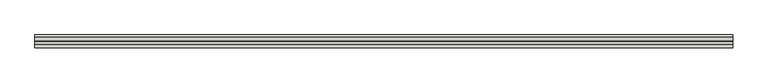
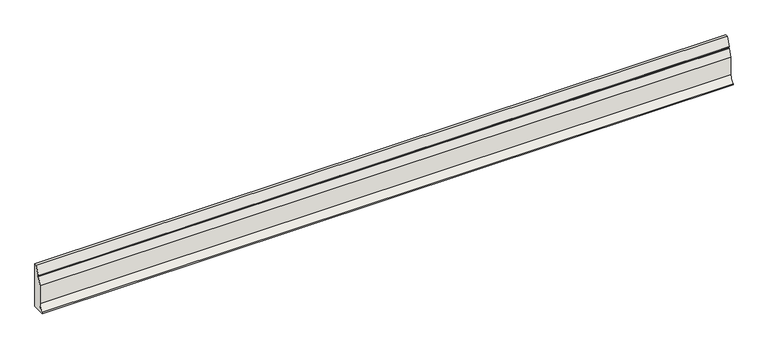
"""IFC4 building model written with IfcOpenShell, lengths in millimetres: wall geometry, GM_PC_WPB_ACO kerb PB straight_ACO : PB H300 standard."""

from ifc_helpers import new_model, si_unit, frame, origin, place, context, project, spatial, source, transform, mapped, element, save
from ifc_brep_helpers import plane_surface, extruded_surface, spline_curve, advanced_brep


def wall_fa17ddd6(model_context):
    return source(origin(), model_context, "Body", "AdvancedBrep", [
        advanced_brep(
        [(0.0, -85.0, 8.9329844), (0.0, -60.02016, 54.9904169), (0.0, -60.02016, 180.0038512), (0.0, -41.0897152, 231.6973826), (0.0, -35.6304755, 232.1929291), (0.0, -34.2965161, 236.00239), (0.0, -38.3747848, 239.3170113), (0.0, -16.191681, 300.0008401), (0.0, 0.0, 300.0008401), (0.0, 0.0, -0.0124899), (0.0, -85.0, -0.0124899), (4600.0, -85.0, 8.9329844), (4600.0, -85.0, -0.0124899), (4600.0, 0.0, -0.0124899), (4600.0, 0.0, 300.0008401), (4600.0, -16.191681, 300.0008401), (4600.0, -38.3747848, 239.3170113), (4600.0, -34.2965161, 236.00239), (4600.0, -35.6304755, 232.1929291), (4600.0, -41.0897152, 231.6973826), (4600.0, -60.02016, 180.0038512), (4600.0, -60.02016, 54.9904169)],
        [
            (0, 1, spline_curve(3, [(0.0, -85.0, 8.9329844), (0.0, -69.4194957, 19.0724445), (0.0, -60.0210198, 36.401179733), (0.0, -60.02016, 54.9904169)], [4, 4], [0.0, 1.0])),
            (1, 2),
            (2, 3),
            (3, 4),
            (4, 5),
            (5, 6),
            (6, 7),
            (7, 8),
            (8, 9),
            (9, 10),
            (10, 0),
            (11, 12),
            (12, 13),
            (13, 14),
            (14, 15),
            (15, 16),
            (16, 17),
            (17, 18),
            (18, 19),
            (19, 20),
            (20, 21),
            (21, 11, spline_curve(3, [(4600.0, -60.02016, 54.9904169), (4600.0, -60.0210198, 36.401179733), (4600.0, -69.4194957, 19.0724445), (4600.0, -85.0, 8.9329844)], [4, 4], [0.0, 1.0])),
            (0, 11),
            (21, 1),
            (20, 2),
            (19, 3),
            (18, 4),
            (17, 5),
            (16, 6),
            (15, 7),
            (14, 8),
            (13, 9),
            (12, 10),
        ],
        [
            plane_surface(frame((0.0, 0.0, 0.0), z_axis=(-1.0, 0.0, 0.0), x_axis=(0.0, 0.0, 1.0))),
            plane_surface(frame((4600.0, 0.0, 0.0), z_axis=(1.0, 0.0, 0.0), x_axis=(0.0, 0.0, 1.0))),
            extruded_surface(spline_curve(3, [(4600.0, -85.0, 8.9329844), (4600.0, -69.4194957, 19.0724445), (4600.0, -60.0210198, 36.401179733), (4600.0, -60.02016, 54.9904169)], [4, 4], [0.0, 1.0]), (-4600.0, 0.0, 0.0), 4600.0),
            plane_surface(frame((0.0, -60.02016, 54.9904169), z_axis=(0.0, -1.0, 0.0), x_axis=(1.0, 0.0, 0.0))),
            plane_surface(frame((0.0, -60.02016, 180.0038512), z_axis=(0.0, -0.9390162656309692, 0.34387272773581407), x_axis=(1.0, 0.0, 0.0))),
            plane_surface(frame((0.0, -41.0897152, 231.6973826), z_axis=(0.0, -0.09040040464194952, 0.995905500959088), x_axis=(1.0, 0.0, 0.0))),
            plane_surface(frame((0.0, -35.6304755, 232.1929291), z_axis=(0.0, -0.9438082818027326, 0.3304934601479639), x_axis=(1.0, 0.0, 0.0))),
            plane_surface(frame((0.0, -34.2965161, 236.00239), z_axis=(0.0, -0.6307104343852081, -0.776018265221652), x_axis=(1.0, 0.0, 0.0))),
            plane_surface(frame((0.0, -38.3747848, 239.3170113), z_axis=(0.0, -0.9392141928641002, 0.3433317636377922), x_axis=(1.0, 0.0, 0.0))),
            plane_surface(frame((0.0, -16.191681, 300.0008401), z_axis=(0.0, 0.0, 1.0), x_axis=(1.0, 0.0, 0.0))),
            plane_surface(frame((0.0, 0.0, 300.0008401), z_axis=(0.0, 1.0, 0.0), x_axis=(1.0, 0.0, 0.0))),
            plane_surface(frame((0.0, 0.0, -0.0124899), z_axis=(0.0, 0.0, -1.0), x_axis=(1.0, 0.0, 0.0))),
            plane_surface(frame((0.0, -85.0, -0.0124899), z_axis=(0.0, -1.0, 0.0), x_axis=(1.0, 0.0, 0.0))),
        ],
        [
            (0, [[1, 2, 3, 4, 5, 6, 7, 8, 9, 10, 11]]),
            (1, [[12, 13, 14, 15, 16, 17, 18, 19, 20, 21, 22]]),
            (2, [[-1, 23, -22, 24]]),
            (3, [[-2, -24, -21, 25]]),
            (4, [[-3, -25, -20, 26]]),
            (5, [[-4, -26, -19, 27]]),
            (6, [[-5, -27, -18, 28]]),
            (7, [[-6, -28, -17, 29]]),
            (8, [[-7, -29, -16, 30]]),
            (9, [[-8, -30, -15, 31]]),
            (10, [[-9, -31, -14, 32]]),
            (11, [[-10, -32, -13, 33]]),
            (12, [[-11, -33, -12, -23]]),
        ],
    ),
    ])


if __name__ == "__main__":
    model = new_model("IFC4")
    model_context = context("Model", 3, world=origin())
    ifc_project = project(units=[si_unit("LENGTHUNIT", "METRE", prefix="MILLI")], contexts=[model_context])
    site = spatial("IfcSite", under=ifc_project)
    building = spatial("IfcBuilding", under=site)
    placement = place(None, origin())
    wall_shape = wall_fa17ddd6(model_context)
    element("IfcWall", 1, ObjectType="GM_PC_WPB_ACO kerb PB straight_ACO : PB H300 standard", at=placement, inside=building, context=model_context, shape_type="MappedRepresentation", body=[
        mapped(wall_shape, transform((0.0, 0.0, 0.0), x_axis=(1.0, 0.0, 0.0), y_axis=(0.0, 1.0, 0.0), z_axis=(0.0, 0.0, 1.0))),
    ])
    save(model, "model.ifc")
